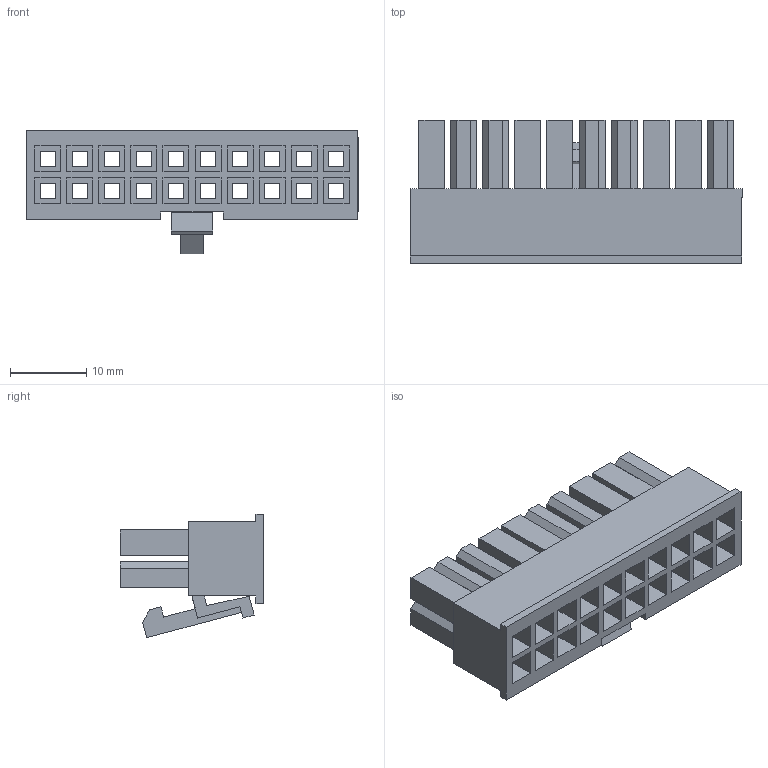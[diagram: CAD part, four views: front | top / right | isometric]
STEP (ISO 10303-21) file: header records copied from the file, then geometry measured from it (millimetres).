
FILE_DESCRIPTION (( 'STEP AP214' ), '1' );
FILE_NAME ('24795r#1.STEP', '2011-07-11T13:38:29', ( 'Vicor User' ), ( 'Microsoft' ), 'SwSTEP 2.0', 'SolidWorks 2010', '' );
FILE_SCHEMA (( 'AUTOMOTIVE_DESIGN' ));
Length unit declared in the file: inch
Products named in the file (1): 24795r#1
Bounding box: 43.5 x 18.8 x 16.18 mm (x, y, z)
Volume: 3533 mm3; surface area: 8477.4 mm2
Topology: 1 solids, 1 shells, 336 faces, 878 edges, 584 vertices
Faces by surface type: plane 336
Entity records: 14582 total; most frequent: CARTESIAN_POINT 1799, ORIENTED_EDGE 1756, DIRECTION 1552, EDGE_CURVE 878, VECTOR 878, LINE 878, VERTEX_POINT 584, EDGE_LOOP 418
